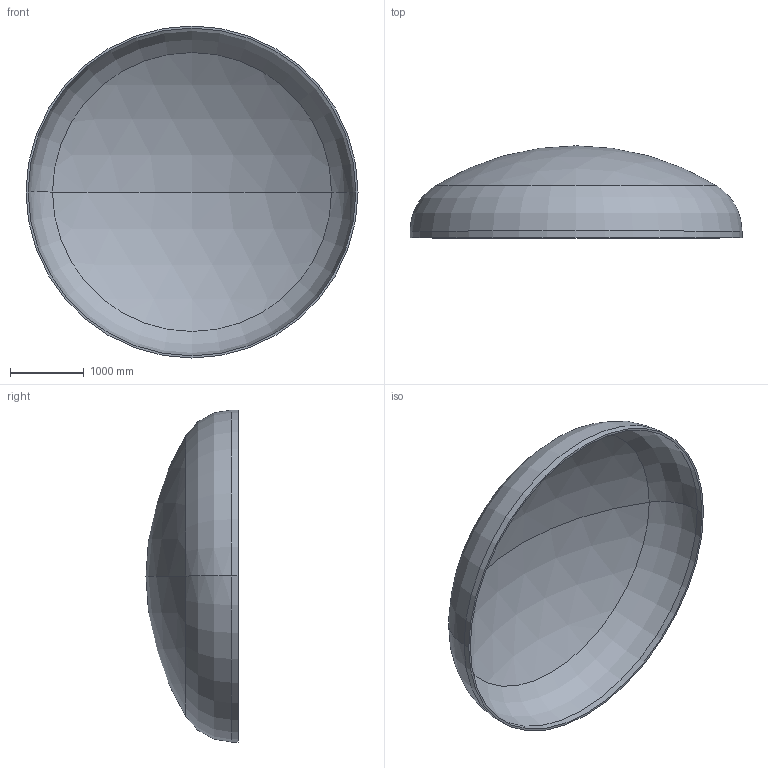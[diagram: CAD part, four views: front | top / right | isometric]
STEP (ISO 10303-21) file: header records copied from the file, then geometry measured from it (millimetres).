
FILE_DESCRIPTION (( 'STEP AP203' ), '1' );
FILE_NAME ('DIN 28013 Korbbogenform_-_Boden DIN 28013 - 4500 x 90 - I - s=29.step', '2016-07-01T23:15:48', ( '' ), ( '' ), 'SwSTEP 2.0', 'SolidWorks 2013', '' );
FILE_SCHEMA (( 'CONFIG_CONTROL_DESIGN' ));
Length unit declared in the file: millimetre
Products named in the file (1): DIN 28013 Korbbogenform_-_Boden DIN 28013 - 4500 x 90 - I - s=29
Bounding box: 4500 x 1247.09 x 4500 mm (x, y, z)
Volume: 670398715.7 mm3; surface area: 46643473.5 mm2
Topology: 1 solids, 1 shells, 13 faces, 24 edges, 14 vertices
Faces by surface type: torus 4, cylinder 4, sphere 4, plane 1
Entity records: 407 total; most frequent: DIRECTION 72, CARTESIAN_POINT 52, ORIENTED_EDGE 48, AXIS2_PLACEMENT_3D 34, EDGE_CURVE 24, CIRCLE 20, EDGE_LOOP 14, VERTEX_POINT 14
